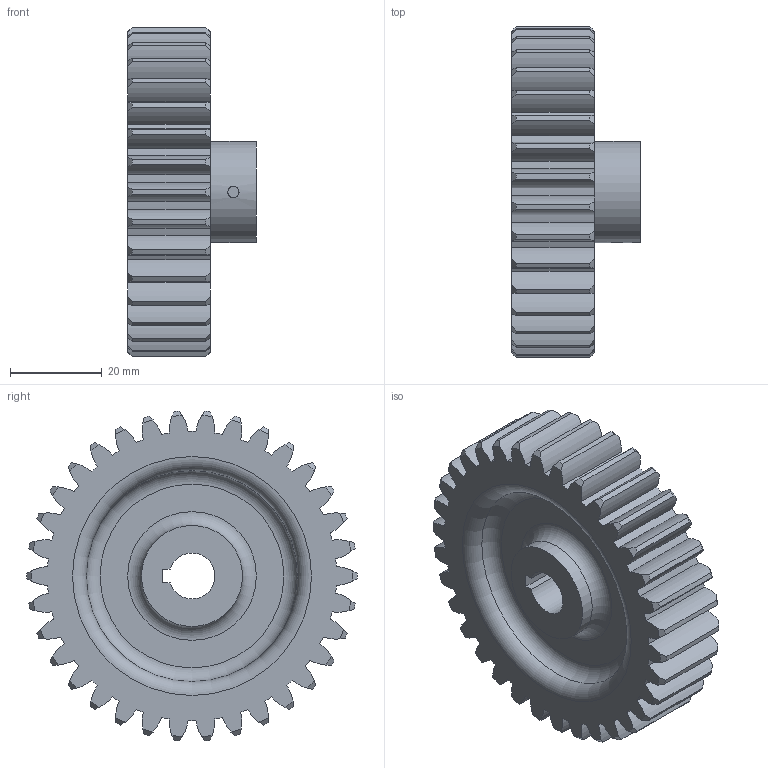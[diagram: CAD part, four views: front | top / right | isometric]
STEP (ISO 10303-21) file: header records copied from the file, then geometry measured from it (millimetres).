
FILE_DESCRIPTION(/* description */ (''),/* implementation_level */ '2;1');
FILE_NAME(/* name */ 'C:\Users\woori\Desktop\600705E1002\600705E1002-스퍼기어.stp',/* time_stamp */ '2020-07-18T11:29:25+09:00',/* author */ ('woori'),/* organization */ (''),/* preprocessor_version */ 'ST-DEVELOPER v16.1',/* originating_system */ 'Autodesk Inventor 2016',/* authorisation */ '');
FILE_SCHEMA (('AUTOMOTIVE_DESIGN { 1 0 10303 214 3 1 1 }'));
Length unit declared in the file: millimetre
Products named in the file (1): 600705E1002-스퍼기어
Bounding box: 28 x 72 x 71.79 mm (x, y, z)
Volume: 50889.1 mm3; surface area: 17925.8 mm2
Topology: 1 solids, 1 shells, 223 faces, 650 edges, 433 vertices
Faces by surface type: cylinder 140, cone 68, plane 9, torus 6
Full cylindrical faces by diameter (mm): 2.459 x1, 22 x2
Entity records: 7737 total; most frequent: CARTESIAN_POINT 1770, DIRECTION 1302, ORIENTED_EDGE 1278, EDGE_CURVE 639, AXIS2_PLACEMENT_3D 578, VERTEX_POINT 431, CIRCLE 354, EDGE_LOOP 240
